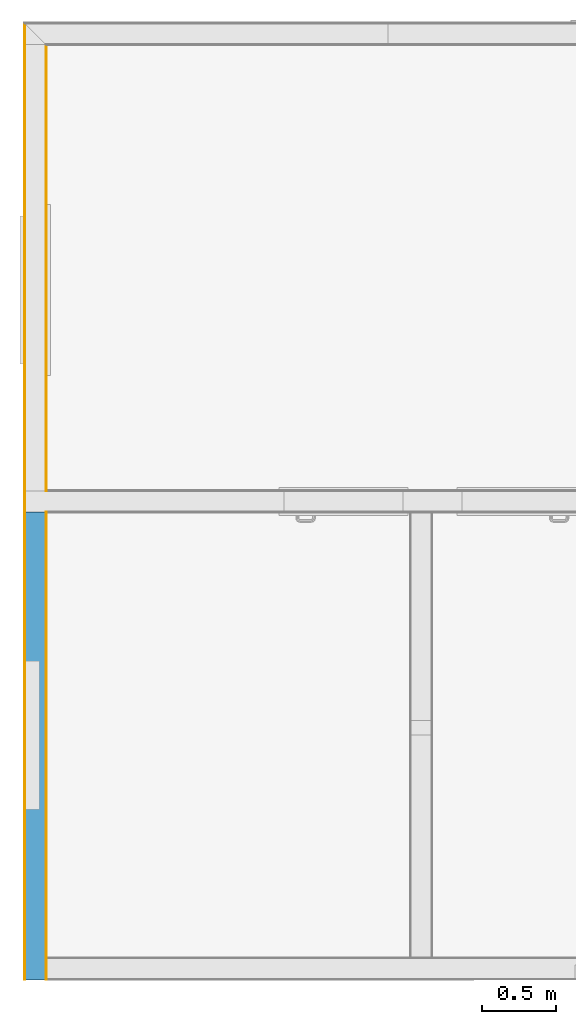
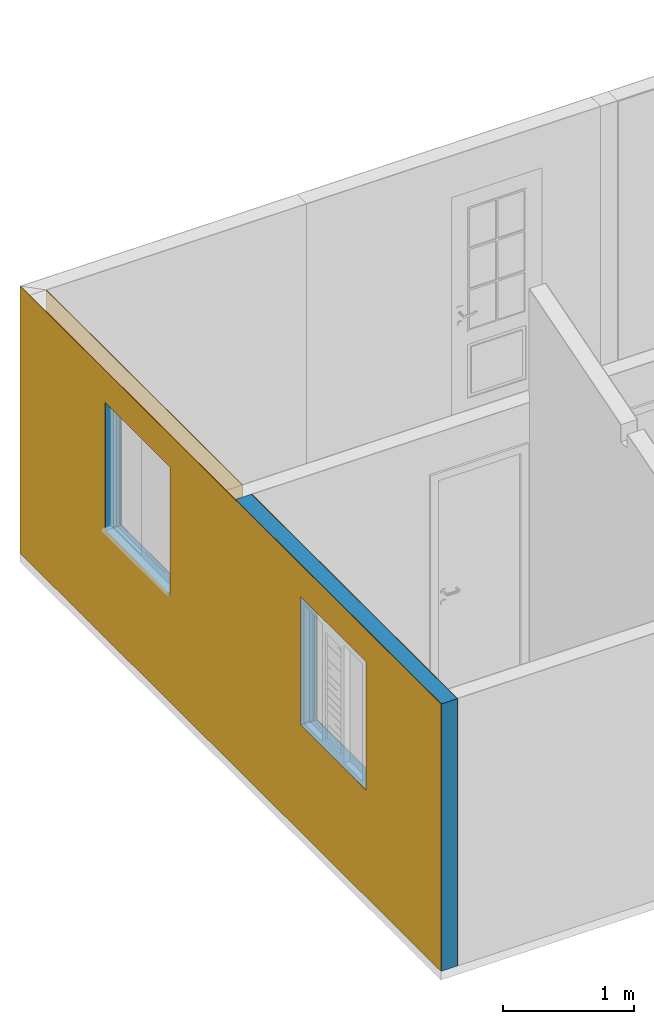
# One storey, part 7 of 8: 2 coverings, 1 building element part, 2 openings, 1 element without a shape of its own.
"""IFC2X3 building model written with IfcOpenShell, lengths in millimetres."""

from ifc_helpers import new_model, entity, si_unit, converted_unit, derived_unit, money_unit, direction, frame, origin_with_axes, origin_2d_with_axis, place, context, subcontext, project, spatial, polyline, rectangle, outline, extrude, boolean, faceted_brep, material, type_object, element, aggregate, save


model = new_model("IFC2X3")

# Units and contexts
model_context = context("Model", 3, precision=0.01, world=origin_with_axes(), true_north=direction((0.0, 1.0)))
body_context = subcontext(model_context, "Body", "Model", "MODEL_VIEW")
ifc_project = project(units=[si_unit("LENGTHUNIT", "METRE", prefix="MILLI"), si_unit("AREAUNIT", "SQUARE_METRE"), si_unit("VOLUMEUNIT", "CUBIC_METRE"), converted_unit("PLANEANGLEUNIT", "DEGREE", entity("IfcPlaneAngleMeasure", 0.0174532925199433), si_unit("PLANEANGLEUNIT", "RADIAN"), dimensions=[0, 0, 0, 0, 0, 0, 0]), money_unit("USD"), converted_unit("TIMEUNIT", "Year", entity("IfcTimeMeasure", 31557600.0), si_unit("TIMEUNIT", "SECOND"), dimensions=[0, 0, 1, 0, 0, 0, 0]), si_unit("MASSUNIT", "GRAM", prefix="KILO"), si_unit("THERMODYNAMICTEMPERATUREUNIT", "DEGREE_CELSIUS"), si_unit("LUMINOUSINTENSITYUNIT", "LUMEN"), si_unit("ENERGYUNIT", "JOULE", prefix="MEGA"), derived_unit("THERMALCONDUCTANCEUNIT", [(si_unit("POWERUNIT", "WATT"), 1), (si_unit("LENGTHUNIT", "METRE"), -1), (si_unit("THERMODYNAMICTEMPERATUREUNIT", "KELVIN"), -1)]), derived_unit("SPECIFICHEATCAPACITYUNIT", [(si_unit("ENERGYUNIT", "JOULE"), 1), (si_unit("MASSUNIT", "GRAM", prefix="KILO"), -1), (si_unit("THERMODYNAMICTEMPERATUREUNIT", "KELVIN"), -1)]), derived_unit("MASSDENSITYUNIT", [(si_unit("MASSUNIT", "GRAM", prefix="KILO"), 1), (si_unit("VOLUMEUNIT", "CUBIC_METRE"), -1)])], contexts=[model_context])

# Site, building, storey
site_placement = place(None, origin_with_axes())
site = spatial("IfcSite", under=ifc_project, at=site_placement, Name="Local", CompositionType="ELEMENT")
building_placement = place(site_placement, origin_with_axes())
building = spatial("IfcBuilding", under=site, at=building_placement, Name="Construção", CompositionType="ELEMENT")
storey_placement = place(building_placement, origin_with_axes())
storey = spatial("IfcBuildingStorey", under=building, at=storey_placement, Name="Pavimento Térreo", CompositionType="ELEMENT", Elevation=0.0)

# Wall, openings, coverings, building element part
wall_type = type_object("IfcWallType", Name="Alvenaria 140, Rebocada 2 Faces 150", PredefinedType="NOTDEFINED")
wall_placement = place(storey_placement, frame((0.0, 6450.000000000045, 0.0), z_axis=(0.0, 0.0, 1.0), x_axis=(0.0, -1.0, 0.0)))
wall = element("IfcWall", 1, at=wall_placement, inside=storey, type_object=wall_type, Name="Parede-01")
opening_1_placement = place(wall_placement, frame((4800.000000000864, 0.0, 1000.0), z_axis=(0.0, 0.0, 1.0), x_axis=(1.0, 0.0, 0.0)))
element("IfcOpeningElement", 2, at=opening_1_placement, cuts=wall, Name="J03", context=body_context, shape_type="SweptSolid", body=[
    extrude(rectangle(XDim=1000.0, YDim=1200.0, at=origin_2d_with_axis()), frame((0.0, 150.0000000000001, 600.0000000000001), z_axis=(0.0, 1.0, 0.0), x_axis=(1.0, 0.0, 0.0)), (0.0, 0.0, -1.0), 450.0000000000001),
])
opening_2_placement = place(wall_placement, frame((1800.000000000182, 0.0, 1000.0), z_axis=(0.0, 0.0, 1.0), x_axis=(1.0, 0.0, 0.0)))
element("IfcOpeningElement", 3, at=opening_2_placement, cuts=wall, Name="J02", context=body_context, shape_type="SweptSolid", body=[
    extrude(rectangle(XDim=1000.0, YDim=1200.0, at=origin_2d_with_axis()), frame((0.0, 49.99999999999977, 600.0000000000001), z_axis=(0.0, -1.0, 0.0), x_axis=(-1.0, 0.0, 0.0)), (0.0, 0.0, -1.0), 250.0000000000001),
    extrude(rectangle(XDim=1000.0, YDim=1200.0, at=origin_2d_with_axis()), frame((0.0, 49.99999999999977, 600.0000000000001), z_axis=(0.0, 1.0, 0.0), x_axis=(-1.0, 0.0, 0.0)), (0.0, 0.0, -1.0), 200.0),
    extrude(rectangle(XDim=1150.0, YDim=1350.0, at=origin_2d_with_axis()), frame((0.0, 149.9999999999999, 599.9999999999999), z_axis=(0.0, -1.0, 0.0), x_axis=(-1.0, 0.0, 0.0)), (0.0, 0.0, -1.0), 200.0),
])
ifc_material_1 = material(Name="Reboco DEF")
covering_1_placement = place(wall_placement, origin_with_axes())
covering_1 = element("IfcCovering", 4, at=covering_1_placement, material=ifc_material_1, Name="Reboco DEF", PredefinedType="CLADDING", context=body_context, shape_type="CSG", body=[
    boolean("DIFFERENCE", boolean("DIFFERENCE", boolean("DIFFERENCE", extrude(outline(polyline([(0.0, 0.0), (6450.000000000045, 0.0), (6450.000000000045, 5.000000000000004), (0.0, 5.000000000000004), (0.0, 0.0)])), origin_with_axes(), (0.0, 0.0, 1.0), 2500.0), faceted_brep([(3295.000000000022, 144.9999999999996, 2300.0), (4.999999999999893, 144.9999999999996, 2300.0), (4.999999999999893, 144.9999999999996, 0.0), (0.0, 145.0, 0.0), (0.0, 145.0, 2500.0), (3295.000000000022, 144.9999999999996, 2500.0), (3295.000000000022, 4.999999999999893, 2300.0), (4.999999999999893, 4.999999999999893, 2300.0), (5.000000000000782, 4.999999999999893, 0.0), (0.0, 5.000000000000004, 0.0), (0.0, 5.000000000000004, 2500.0), (3295.000000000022, 4.999999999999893, 2500.0)], [[[0, 1, 2, 3, 4, 5]], [[1, 0, 6, 7]], [[2, 1, 7, 8]], [[2, 8, 9, 3]], [[4, 3, 9, 10]], [[11, 5, 4, 10]], [[5, 11, 6, 0]], [[6, 11, 10, 9, 8, 7]]])), faceted_brep([(3155.000000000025, 150.0000000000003, 2500.0), (3155.000000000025, 144.9999999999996, 2500.0), (3295.000000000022, 144.9999999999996, 2500.0), (3295.000000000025, 150.0000000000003, 2500.0), (3155.000000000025, 149.9999999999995, 0.0), (3155.000000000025, 144.9999999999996, 0.0), (3295.000000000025, 144.9999999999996, 0.0), (3295.000000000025, 149.9999999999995, 0.0)], [[[0, 1, 2, 3]], [[1, 0, 4, 5]], [[1, 5, 6, 2]], [[7, 3, 2, 6]], [[4, 0, 3, 7]], [[5, 4, 7, 6]]])), faceted_brep([(144.9999999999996, 144.9999999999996, 2500.0), (144.9999999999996, 150.0000000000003, 2500.0), (0.0, 150.0, 2500.0), (0.0, 145.0, 2500.0), (144.9999999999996, 150.0000000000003, 0.0), (144.9999999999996, 144.9999999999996, 0.0), (0.0, 150.0, 0.0), (0.0, 145.0, 0.0)], [[[0, 1, 2, 3]], [[4, 1, 0, 5]], [[1, 4, 6, 2]], [[2, 6, 7, 3]], [[5, 0, 3, 7]], [[4, 5, 7, 6]]])),
])
covering_2_placement = place(wall_placement, origin_with_axes())
covering_2 = element("IfcCovering", 5, at=covering_2_placement, material=ifc_material_1, Name="Reboco DEF", PredefinedType="CLADDING", context=body_context, shape_type="CSG", body=[
    boolean("DIFFERENCE", boolean("DIFFERENCE", boolean("DIFFERENCE", extrude(outline(polyline([(0.0, 145.0), (6450.000000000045, 145.0), (6450.000000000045, 150.0), (0.0, 150.0), (0.0, 145.0)])), origin_with_axes(), (0.0, 0.0, 1.0), 2500.0), faceted_brep([(3295.000000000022, 144.9999999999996, 2300.0), (4.999999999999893, 144.9999999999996, 2300.0), (4.999999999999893, 144.9999999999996, 0.0), (0.0, 145.0, 0.0), (0.0, 145.0, 2500.0), (3295.000000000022, 144.9999999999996, 2500.0), (3295.000000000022, 4.999999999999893, 2300.0), (4.999999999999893, 4.999999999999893, 2300.0), (5.000000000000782, 4.999999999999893, 0.0), (0.0, 5.000000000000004, 0.0), (0.0, 5.000000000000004, 2500.0), (3295.000000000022, 4.999999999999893, 2500.0)], [[[0, 1, 2, 3, 4, 5]], [[1, 0, 6, 7]], [[2, 1, 7, 8]], [[2, 8, 9, 3]], [[4, 3, 9, 10]], [[11, 5, 4, 10]], [[5, 11, 6, 0]], [[6, 11, 10, 9, 8, 7]]])), faceted_brep([(3155.000000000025, 150.0000000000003, 2500.0), (3155.000000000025, 144.9999999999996, 2500.0), (3295.000000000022, 144.9999999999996, 2500.0), (3295.000000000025, 150.0000000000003, 2500.0), (3155.000000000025, 149.9999999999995, 0.0), (3155.000000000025, 144.9999999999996, 0.0), (3295.000000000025, 144.9999999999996, 0.0), (3295.000000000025, 149.9999999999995, 0.0)], [[[0, 1, 2, 3]], [[1, 0, 4, 5]], [[1, 5, 6, 2]], [[7, 3, 2, 6]], [[4, 0, 3, 7]], [[5, 4, 7, 6]]])), faceted_brep([(144.9999999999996, 144.9999999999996, 2500.0), (144.9999999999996, 150.0000000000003, 2500.0), (0.0, 150.0, 2500.0), (0.0, 145.0, 2500.0), (144.9999999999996, 150.0000000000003, 0.0), (144.9999999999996, 144.9999999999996, 0.0), (0.0, 150.0, 0.0), (0.0, 145.0, 0.0)], [[[0, 1, 2, 3]], [[4, 1, 0, 5]], [[1, 4, 6, 2]], [[2, 6, 7, 3]], [[5, 0, 3, 7]], [[4, 5, 7, 6]]])),
])
ifc_material_2 = material(Name="Bloco de Concreto - Estrutural DEF")
building_element_part_placement = place(wall_placement, origin_with_axes())
building_element_part = element("IfcBuildingElementPart", 6, at=building_element_part_placement, material=ifc_material_2, Name="Bloco de Concreto - Estrutural DEF", context=body_context, shape_type="CSG", body=[
    boolean("DIFFERENCE", boolean("DIFFERENCE", boolean("DIFFERENCE", extrude(outline(polyline([(0.0, 4.999999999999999), (6450.000000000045, 4.999999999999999), (6450.000000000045, 145.0), (0.0, 145.0), (0.0, 4.999999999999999)])), origin_with_axes(), (0.0, 0.0, 1.0), 2500.0), faceted_brep([(3295.000000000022, 144.9999999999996, 2300.0), (4.999999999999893, 144.9999999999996, 2300.0), (4.999999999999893, 144.9999999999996, 0.0), (0.0, 145.0, 0.0), (0.0, 145.0, 2500.0), (3295.000000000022, 144.9999999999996, 2500.0), (3295.000000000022, 4.999999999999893, 2300.0), (4.999999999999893, 4.999999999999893, 2300.0), (5.000000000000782, 4.999999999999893, 0.0), (0.0, 5.000000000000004, 0.0), (0.0, 5.000000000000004, 2500.0), (3295.000000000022, 4.999999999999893, 2500.0)], [[[0, 1, 2, 3, 4, 5]], [[1, 0, 6, 7]], [[2, 1, 7, 8]], [[2, 8, 9, 3]], [[4, 3, 9, 10]], [[11, 5, 4, 10]], [[5, 11, 6, 0]], [[6, 11, 10, 9, 8, 7]]])), faceted_brep([(3155.000000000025, 150.0000000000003, 2500.0), (3155.000000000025, 144.9999999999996, 2500.0), (3295.000000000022, 144.9999999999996, 2500.0), (3295.000000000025, 150.0000000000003, 2500.0), (3155.000000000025, 149.9999999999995, 0.0), (3155.000000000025, 144.9999999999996, 0.0), (3295.000000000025, 144.9999999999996, 0.0), (3295.000000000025, 149.9999999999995, 0.0)], [[[0, 1, 2, 3]], [[1, 0, 4, 5]], [[1, 5, 6, 2]], [[7, 3, 2, 6]], [[4, 0, 3, 7]], [[5, 4, 7, 6]]])), faceted_brep([(144.9999999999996, 144.9999999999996, 2500.0), (144.9999999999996, 150.0000000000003, 2500.0), (0.0, 150.0, 2500.0), (0.0, 145.0, 2500.0), (144.9999999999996, 150.0000000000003, 0.0), (144.9999999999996, 144.9999999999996, 0.0), (0.0, 150.0, 0.0), (0.0, 145.0, 0.0)], [[[0, 1, 2, 3]], [[4, 1, 0, 5]], [[1, 4, 6, 2]], [[2, 6, 7, 3]], [[5, 0, 3, 7]], [[4, 5, 7, 6]]])),
])
aggregate(wall, [covering_1, building_element_part, covering_2])

save(model, "model.ifc")
